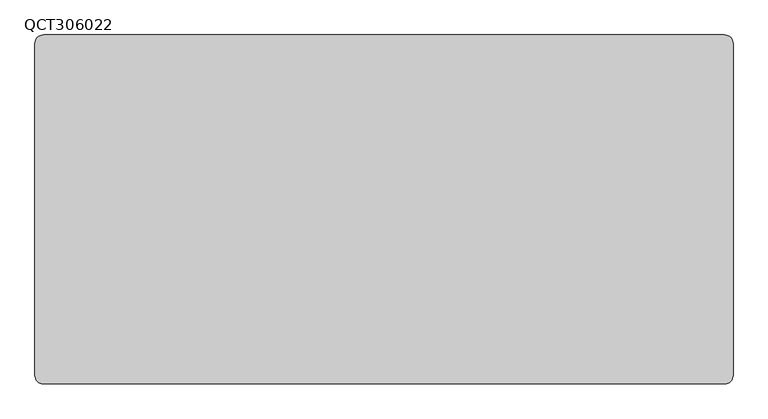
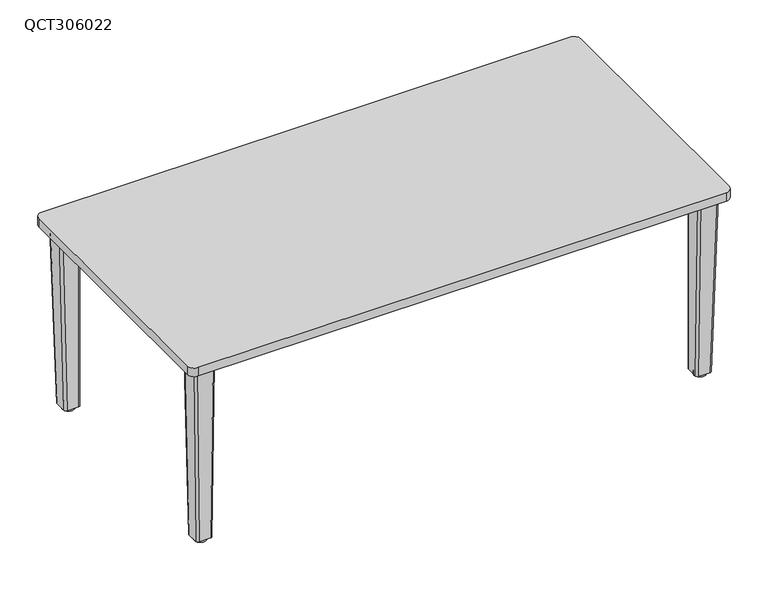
"""IFC4 building model written with IfcOpenShell, lengths in millimetres: furniture geometry, Leland-Quince-Table_Rectangle : QCT306022."""

from ifc_helpers import new_model, si_unit, point, frame, frame_2d, origin, origin_with_axes, place, context, project, spatial, polyline, circle_curve, trimmed, segment, composite_curve, outline, extrude, source, transform, mapped, element, save
from ifc_brep_helpers import plane_surface, cylinder_surface, extruded_surface, advanced_brep


def qct306022_8d185105(model_context):
    return source(origin(), model_context, "Body", "SolidModel", [
        advanced_brep(
        [(731.0299122, -299.2482078, 528.6487443), (686.5799122, -299.2482078, 528.6487443), (680.2299122, -305.5982078, 528.6487443), (680.2299122, -350.0482078, 528.6487443), (686.5799122, -356.3982078, 528.6487443), (731.0299122, -356.3982078, 528.6487443), (737.3799122, -350.0482078, 528.6487443), (737.3799122, -305.5982078, 528.6487443), (718.7392552, -299.2482078, 9.5377), (725.0892552, -305.5982078, 9.5377), (725.0892552, -337.7651364, 9.5377), (718.7392552, -344.1151364, 9.5377), (686.5799122, -344.1151364, 9.5377), (680.2299122, -337.7651364, 9.5377), (680.2299122, -305.5982078, 9.5377), (686.5799122, -299.2482078, 9.5377)],
        [
            (0, 1),
            (1, 2, circle_curve(frame((686.5799122, -305.5982078, 528.6487443), z_axis=(0.0, 0.0, 1.0), x_axis=(-1.0, 0.0, 0.0)), 6.35)),
            (2, 3),
            (3, 4, circle_curve(frame((686.5799122, -350.0482078, 528.6487443), z_axis=(0.0, 0.0, 1.0), x_axis=(-1.0, 0.0, 0.0)), 6.35)),
            (4, 5),
            (5, 6, circle_curve(frame((731.0299122, -350.0482078, 528.6487443), z_axis=(0.0, 0.0, 1.0), x_axis=(-1.0, 0.0, 0.0)), 6.35)),
            (6, 7),
            (7, 0, circle_curve(frame((731.0299122, -305.5982078, 528.6487443), z_axis=(0.0, 0.0, 1.0), x_axis=(-1.0, 0.0, 0.0)), 6.35)),
            (8, 9, circle_curve(frame((718.7392552, -305.5982078, 9.5377), z_axis=(0.0, 0.0, -1.0), x_axis=(-1.0, 0.0, 0.0)), 6.35)),
            (9, 10),
            (10, 11, circle_curve(frame((718.7392552, -337.7651364, 9.5377), z_axis=(0.0, 0.0, -1.0), x_axis=(-1.0, 0.0, 0.0)), 6.35)),
            (11, 12),
            (12, 13, circle_curve(frame((686.5799122, -337.7651364, 9.5377), z_axis=(0.0, 0.0, -1.0), x_axis=(-1.0, 0.0, 0.0)), 6.35)),
            (13, 14),
            (14, 15, circle_curve(frame((686.5799122, -305.5982078, 9.5377), z_axis=(0.0, 0.0, -1.0), x_axis=(-1.0, 0.0, 0.0)), 6.35)),
            (15, 8),
            (8, 0),
            (7, 9),
            (6, 10),
            (5, 11),
            (4, 12),
            (3, 13),
            (2, 14),
            (1, 15),
        ],
        [
            plane_surface(frame((708.8049122, -327.8232078, 528.6487443), z_axis=(0.0, 0.0, 1.0), x_axis=(1.0, 0.0, 0.0))),
            plane_surface(frame((702.6595837, -321.6816721, 9.5377), z_axis=(0.0, 0.0, -1.0), x_axis=(1.0, 0.0, 0.0))),
            extruded_surface(trimmed(circle_curve(frame((718.7392552, -305.5982078, 9.5377), z_axis=(0.0, 0.0, 1.0), x_axis=(-1.0, 0.0, 0.0)), 6.35), [point((725.0892552, -305.5982078, 9.5377))], [point((718.7392552, -299.2482078, 9.5377))], True, "CARTESIAN"), (12.29065700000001, 0.0, 519.1110443), 519.2565228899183),
            plane_surface(frame((725.0892552, -321.6816721, 9.5377), z_axis=(0.999719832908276, 0.0, -0.023669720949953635), x_axis=(0.0, 1.0, 0.0))),
            extruded_surface(trimmed(circle_curve(frame((718.7392552, -337.7651364, 9.5377), z_axis=(0.0, 0.0, 1.0), x_axis=(-1.0, 0.0, 0.0)), 6.35), [point((718.7392552, -344.1151364, 9.5377))], [point((725.0892552, -337.7651364, 9.5377))], True, "CARTESIAN"), (12.29065700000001, -12.283071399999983, 519.1110443), 519.4017812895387),
            plane_surface(frame((702.6595837, -344.1151364, 9.5377), z_axis=(0.0, -0.9997201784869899, -0.02365512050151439), x_axis=(1.0, 0.0, 0.0))),
            extruded_surface(trimmed(circle_curve(frame((686.5799122, -337.7651364, 9.5377), z_axis=(0.0, 0.0, 1.0), x_axis=(-1.0, 0.0, 0.0)), 6.35), [point((680.2299122, -337.7651364, 9.5377))], [point((686.5799122, -344.1151364, 9.5377))], True, "CARTESIAN"), (0.0, -12.283071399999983, 519.1110443), 519.2563433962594),
            plane_surface(frame((680.2299122, -321.6816721, 9.5377), z_axis=(-1.0, 0.0, 0.0), x_axis=(0.0, -1.0, 0.0))),
            cylinder_surface(frame((686.5799122, -305.5982078, 9.5377), z_axis=(0.0, 0.0, 1.0), x_axis=(-1.0, 0.0, 0.0)), 6.35),
            plane_surface(frame((702.6595837, -299.2482078, 9.5377), z_axis=(0.0, 1.0, 0.0), x_axis=(-1.0, 0.0, 0.0))),
        ],
        [
            (0, [[1, 2, 3, 4, 5, 6, 7, 8]]),
            (1, [[9, 10, 11, 12, 13, 14, 15, 16]]),
            (2, [[-9, 17, -8, 18]]),
            (3, [[-10, -18, -7, 19]]),
            (4, [[-11, -19, -6, 20]]),
            (5, [[-12, -20, -5, 21]]),
            (6, [[-13, -21, -4, 22]]),
            (7, [[-14, -22, -3, 23]]),
            (8, [[-15, -23, -2, 24]]),
            (9, [[-16, -24, -1, -17]]),
        ],
    ),
        advanced_brep(
        [(-731.0299122, -299.2482078, 528.6487443), (-737.3799122, -305.5982078, 528.6487443), (-737.3799122, -350.0482078, 528.6487443), (-731.0299122, -356.3982078, 528.6487443), (-686.5799122, -356.3982078, 528.6487443), (-680.2299122, -350.0482078, 528.6487443), (-680.2299122, -305.5982078, 528.6487443), (-686.5799122, -299.2482078, 528.6487443), (-718.7392552, -299.2482078, 9.5377), (-686.5799122, -299.2482078, 9.5377), (-680.2299122, -305.5982078, 9.5377), (-680.2299122, -337.7651364, 9.5377), (-686.5799122, -344.1151364, 9.5377), (-718.7392552, -344.1151364, 9.5377), (-725.0892552, -337.7651364, 9.5377), (-725.0892552, -305.5982078, 9.5377)],
        [
            (0, 1, circle_curve(frame((-731.0299122, -305.5982078, 528.6487443), z_axis=(0.0, 0.0, 1.0), x_axis=(1.0, 0.0, 0.0)), 6.35)),
            (1, 2),
            (2, 3, circle_curve(frame((-731.0299122, -350.0482078, 528.6487443), z_axis=(0.0, 0.0, 1.0), x_axis=(1.0, 0.0, 0.0)), 6.35)),
            (3, 4),
            (4, 5, circle_curve(frame((-686.5799122, -350.0482078, 528.6487443), z_axis=(0.0, 0.0, 1.0), x_axis=(1.0, 0.0, 0.0)), 6.35)),
            (5, 6),
            (6, 7, circle_curve(frame((-686.5799122, -305.5982078, 528.6487443), z_axis=(0.0, 0.0, 1.0), x_axis=(0.0, 1.0, 0.0)), 6.35)),
            (7, 0),
            (8, 9),
            (9, 10, circle_curve(frame((-686.5799122, -305.5982078, 9.5377), z_axis=(0.0, 0.0, -1.0), x_axis=(0.0, 1.0, 0.0)), 6.35)),
            (10, 11),
            (11, 12, circle_curve(frame((-686.5799122, -337.7651364, 9.5377), z_axis=(0.0, 0.0, -1.0), x_axis=(1.0, 0.0, 0.0)), 6.35)),
            (12, 13),
            (13, 14, circle_curve(frame((-718.7392552, -337.7651364, 9.5377), z_axis=(0.0, 0.0, -1.0), x_axis=(1.0, 0.0, 0.0)), 6.35)),
            (14, 15),
            (15, 8, circle_curve(frame((-718.7392552, -305.5982078, 9.5377), z_axis=(0.0, 0.0, -1.0), x_axis=(1.0, 0.0, 0.0)), 6.35)),
            (15, 1),
            (0, 8),
            (14, 2),
            (13, 3),
            (12, 4),
            (11, 5),
            (10, 6),
            (9, 7),
        ],
        [
            plane_surface(frame((-708.8049122, -327.8232078, 528.6487443), z_axis=(0.0, 0.0, 1.0), x_axis=(1.0, 0.0, 0.0))),
            plane_surface(frame((-702.6595837, -321.6816721, 9.5377), z_axis=(0.0, 0.0, -1.0), x_axis=(1.0, 0.0, 0.0))),
            extruded_surface(trimmed(circle_curve(frame((-718.7392552, -305.5982078, 9.5377), z_axis=(0.0, 0.0, 1.0), x_axis=(1.0, 0.0, 0.0)), 6.35), [point((-718.7392552, -299.2482078, 9.5377))], [point((-725.0892552, -305.5982078, 9.5377))], True, "CARTESIAN"), (-12.29065700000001, 0.0, 519.1110443), 519.2565228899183),
            plane_surface(frame((-725.0892552, -321.6816721, 9.5377), z_axis=(-0.999719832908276, 0.0, -0.023669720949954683), x_axis=(0.0, -1.0, 0.0))),
            extruded_surface(trimmed(circle_curve(frame((-718.7392552, -337.7651364, 9.5377), z_axis=(0.0, 0.0, 1.0), x_axis=(1.0, 0.0, 0.0)), 6.35), [point((-725.0892552, -337.7651364, 9.5377))], [point((-718.7392552, -344.1151364, 9.5377))], True, "CARTESIAN"), (-12.29065700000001, -12.283071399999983, 519.1110443), 519.4017812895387),
            plane_surface(frame((-702.6595837, -344.1151364, 9.5377), z_axis=(0.0, -0.9997201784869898, -0.023655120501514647), x_axis=(1.0, 0.0, 0.0))),
            extruded_surface(trimmed(circle_curve(frame((-686.5799122, -337.7651364, 9.5377), z_axis=(0.0, 0.0, 1.0), x_axis=(1.0, 0.0, 0.0)), 6.35), [point((-686.5799122, -344.1151364, 9.5377))], [point((-680.2299122, -337.7651364, 9.5377))], True, "CARTESIAN"), (0.0, -12.283071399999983, 519.1110443), 519.2563433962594),
            plane_surface(frame((-680.2299122, -321.6816721, 9.5377), z_axis=(1.0, 0.0, 0.0), x_axis=(0.0, 1.0, 0.0))),
            cylinder_surface(frame((-686.5799122, -305.5982078, 9.5377), z_axis=(0.0, 0.0, 1.0), x_axis=(0.0, 1.0, 0.0)), 6.35),
            plane_surface(frame((-702.6595837, -299.2482078, 9.5377), z_axis=(0.0, 1.0, 0.0), x_axis=(-1.0, 0.0, 0.0))),
        ],
        [
            (0, [[1, 2, 3, 4, 5, 6, 7, 8]]),
            (1, [[9, 10, 11, 12, 13, 14, 15, 16]]),
            (2, [[-16, 17, -1, 18]]),
            (3, [[-15, 19, -2, -17]]),
            (4, [[-14, 20, -3, -19]]),
            (5, [[-13, 21, -4, -20]]),
            (6, [[-12, 22, -5, -21]]),
            (7, [[-11, 23, -6, -22]]),
            (8, [[-10, 24, -7, -23]]),
            (9, [[-9, -18, -8, -24]]),
        ],
    ),
        advanced_brep(
        [(731.0299122, 299.2482078, 528.6487443), (737.3799122, 305.5982078, 528.6487443), (737.3799122, 350.0482078, 528.6487443), (731.0299122, 356.3982078, 528.6487443), (686.5799122, 356.3982078, 528.6487443), (680.2299122, 350.0482078, 528.6487443), (680.2299122, 305.5982078, 528.6487443), (686.5799122, 299.2482078, 528.6487443), (718.7392552, 299.2482078, 9.5377), (686.5799122, 299.2482078, 9.5377), (680.2299122, 305.5982078, 9.5377), (680.2299122, 337.7651364, 9.5377), (686.5799122, 344.1151364, 9.5377), (718.7392552, 344.1151364, 9.5377), (725.0892552, 337.7651364, 9.5377), (725.0892552, 305.5982078, 9.5377)],
        [
            (0, 1, circle_curve(frame((731.0299122, 305.5982078, 528.6487443), z_axis=(0.0, 0.0, 1.0), x_axis=(-1.0, 0.0, 0.0)), 6.35)),
            (1, 2),
            (2, 3, circle_curve(frame((731.0299122, 350.0482078, 528.6487443), z_axis=(0.0, 0.0, 1.0), x_axis=(-1.0, 0.0, 0.0)), 6.35)),
            (3, 4),
            (4, 5, circle_curve(frame((686.5799122, 350.0482078, 528.6487443), z_axis=(0.0, 0.0, 1.0), x_axis=(-1.0, 0.0, 0.0)), 6.35)),
            (5, 6),
            (6, 7, circle_curve(frame((686.5799122, 305.5982078, 528.6487443), z_axis=(0.0, 0.0, 1.0), x_axis=(0.0, -1.0, 0.0)), 6.35)),
            (7, 0),
            (8, 9),
            (9, 10, circle_curve(frame((686.5799122, 305.5982078, 9.5377), z_axis=(0.0, 0.0, -1.0), x_axis=(0.0, -1.0, 0.0)), 6.35)),
            (10, 11),
            (11, 12, circle_curve(frame((686.5799122, 337.7651364, 9.5377), z_axis=(0.0, 0.0, -1.0), x_axis=(-1.0, 0.0, 0.0)), 6.35)),
            (12, 13),
            (13, 14, circle_curve(frame((718.7392552, 337.7651364, 9.5377), z_axis=(0.0, 0.0, -1.0), x_axis=(-1.0, 0.0, 0.0)), 6.35)),
            (14, 15),
            (15, 8, circle_curve(frame((718.7392552, 305.5982078, 9.5377), z_axis=(0.0, 0.0, -1.0), x_axis=(-1.0, 0.0, 0.0)), 6.35)),
            (15, 1),
            (0, 8),
            (14, 2),
            (13, 3),
            (12, 4),
            (11, 5),
            (10, 6),
            (9, 7),
        ],
        [
            plane_surface(frame((708.8049122, 327.8232078, 528.6487443), z_axis=(0.0, 0.0, 1.0), x_axis=(-1.0, 0.0, 0.0))),
            plane_surface(frame((702.6595837, 321.6816721, 9.5377), z_axis=(0.0, 0.0, -1.0), x_axis=(-1.0, 0.0, 0.0))),
            extruded_surface(trimmed(circle_curve(frame((718.7392552, 305.5982078, 9.5377), z_axis=(0.0, 0.0, 1.0), x_axis=(-1.0, 0.0, 0.0)), 6.35), [point((718.7392552, 299.2482078, 9.5377))], [point((725.0892552, 305.5982078, 9.5377))], True, "CARTESIAN"), (12.29065700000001, 0.0, 519.1110443), 519.2565228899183),
            plane_surface(frame((725.0892552, 321.6816721, 9.5377), z_axis=(0.999719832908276, 0.0, -0.02366972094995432), x_axis=(0.0, 1.0, 0.0))),
            extruded_surface(trimmed(circle_curve(frame((718.7392552, 337.7651364, 9.5377), z_axis=(0.0, 0.0, 1.0), x_axis=(-1.0, 0.0, 0.0)), 6.35), [point((725.0892552, 337.7651364, 9.5377))], [point((718.7392552, 344.1151364, 9.5377))], True, "CARTESIAN"), (12.29065700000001, 12.283071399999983, 519.1110443), 519.4017812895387),
            plane_surface(frame((702.6595837, 344.1151364, 9.5377), z_axis=(0.0, 0.9997201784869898, -0.02365512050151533), x_axis=(-1.0, 0.0, 0.0))),
            extruded_surface(trimmed(circle_curve(frame((686.5799122, 337.7651364, 9.5377), z_axis=(0.0, 0.0, 1.0), x_axis=(-1.0, 0.0, 0.0)), 6.35), [point((686.5799122, 344.1151364, 9.5377))], [point((680.2299122, 337.7651364, 9.5377))], True, "CARTESIAN"), (0.0, 12.283071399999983, 519.1110443), 519.2563433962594),
            plane_surface(frame((680.2299122, 321.6816721, 9.5377), z_axis=(-1.0, 0.0, 0.0), x_axis=(0.0, -1.0, 0.0))),
            cylinder_surface(frame((686.5799122, 305.5982078, 9.5377), z_axis=(0.0, 0.0, 1.0), x_axis=(0.0, -1.0, 0.0)), 6.35),
            plane_surface(frame((702.6595837, 299.2482078, 9.5377), z_axis=(0.0, -1.0, 0.0), x_axis=(1.0, 0.0, 0.0))),
        ],
        [
            (0, [[1, 2, 3, 4, 5, 6, 7, 8]]),
            (1, [[9, 10, 11, 12, 13, 14, 15, 16]]),
            (2, [[-16, 17, -1, 18]]),
            (3, [[-15, 19, -2, -17]]),
            (4, [[-14, 20, -3, -19]]),
            (5, [[-13, 21, -4, -20]]),
            (6, [[-12, 22, -5, -21]]),
            (7, [[-11, 23, -6, -22]]),
            (8, [[-10, 24, -7, -23]]),
            (9, [[-9, -18, -8, -24]]),
        ],
    ),
        extrude(outline(composite_curve([segment(trimmed(circle_curve(frame_2d((-702.6595837, 321.6816721)), 16.66875), [point((-719.3283337, 321.6816721))], [point((-685.9908337, 321.6816721))], False, "CARTESIAN"), True, "CONTINUOUS"), segment(trimmed(circle_curve(frame_2d((-702.6595837, 321.6816721)), 16.66875), [point((-685.9908337, 321.6816721))], [point((-719.3283337, 321.6816721))], False, "CARTESIAN"), True, "CONTINUOUS")], self_intersect=False)), origin_with_axes(), (0.0, 0.0, 1.0), 9.5377),
        extrude(outline(composite_curve([segment(trimmed(circle_curve(frame_2d((702.6595837, 321.6816721)), 16.66875), [point((685.9908337, 321.6816721))], [point((719.3283337, 321.6816721))], False, "CARTESIAN"), True, "CONTINUOUS"), segment(trimmed(circle_curve(frame_2d((702.6595837, 321.6816721)), 16.66875), [point((719.3283337, 321.6816721))], [point((685.9908337, 321.6816721))], False, "CARTESIAN"), True, "CONTINUOUS")], self_intersect=False)), origin_with_axes(), (0.0, 0.0, 1.0), 9.5377),
        extrude(outline(composite_curve([segment(trimmed(circle_curve(frame_2d((-702.6595837, -321.6816721)), 16.66875), [point((-719.3283337, -321.6816721))], [point((-685.9908337, -321.6816721))], False, "CARTESIAN"), True, "CONTINUOUS"), segment(trimmed(circle_curve(frame_2d((-702.6595837, -321.6816721)), 16.66875), [point((-685.9908337, -321.6816721))], [point((-719.3283337, -321.6816721))], False, "CARTESIAN"), True, "CONTINUOUS")], self_intersect=False)), origin_with_axes(), (0.0, 0.0, 1.0), 9.5377),
        extrude(outline(composite_curve([segment(trimmed(circle_curve(frame_2d((702.6595837, -321.6816721)), 16.66875), [point((685.9908337, -321.6816721))], [point((719.3283337, -321.6816721))], False, "CARTESIAN"), True, "CONTINUOUS"), segment(trimmed(circle_curve(frame_2d((702.6595837, -321.6816721)), 16.66875), [point((719.3283337, -321.6816721))], [point((685.9908337, -321.6816721))], False, "CARTESIAN"), True, "CONTINUOUS")], self_intersect=False)), origin_with_axes(), (0.0, 0.0, 1.0), 9.5377),
        extrude(outline(polyline([(-632.61875, 353.21875), (-632.61875, 251.61875), (-734.21875, 251.61875), (-734.21875, 353.21875), (-632.61875, 353.21875)])), frame((0.0, 0.0, 528.6487443), z_axis=(0.0, 0.0, 1.0), x_axis=(1.0, 0.0, 0.0)), (0.0, 0.0, 1.0), 4.7625),
        extrude(outline(polyline([(632.61875, 353.21875), (734.21875, 353.21875), (734.21875, 251.61875), (632.61875, 251.61875), (632.61875, 353.21875)])), frame((0.0, 0.0, 528.6487443), z_axis=(0.0, 0.0, 1.0), x_axis=(1.0, 0.0, 0.0)), (0.0, 0.0, 1.0), 4.7625),
        extrude(outline(polyline([(-632.61875, -353.21875), (-734.21875, -353.21875), (-734.21875, -251.61875), (-632.61875, -251.61875), (-632.61875, -353.21875)])), frame((0.0, 0.0, 528.6487443), z_axis=(0.0, 0.0, 1.0), x_axis=(1.0, 0.0, 0.0)), (0.0, 0.0, 1.0), 4.7625),
        extrude(outline(polyline([(632.61875, -353.21875), (632.61875, -251.61875), (734.21875, -251.61875), (734.21875, -353.21875), (632.61875, -353.21875)])), frame((0.0, 0.0, 528.6487443), z_axis=(0.0, 0.0, 1.0), x_axis=(1.0, 0.0, 0.0)), (0.0, 0.0, 1.0), 4.7625),
        advanced_brep(
        [(-731.0299122, 299.2482078, 528.6487443), (-686.5799122, 299.2482078, 528.6487443), (-680.2299122, 305.5982078, 528.6487443), (-680.2299122, 350.0482078, 528.6487443), (-686.5799122, 356.3982078, 528.6487443), (-731.0299122, 356.3982078, 528.6487443), (-737.3799122, 350.0482078, 528.6487443), (-737.3799122, 305.5982078, 528.6487443), (-718.7392552, 299.2482078, 9.5377), (-725.0892552, 305.5982078, 9.5377), (-725.0892552, 337.7651364, 9.5377), (-718.7392552, 344.1151364, 9.5377), (-686.5799122, 344.1151364, 9.5377), (-680.2299122, 337.7651364, 9.5377), (-680.2299122, 305.5982078, 9.5377), (-686.5799122, 299.2482078, 9.5377)],
        [
            (0, 1),
            (1, 2, circle_curve(frame((-686.5799122, 305.5982078, 528.6487443), z_axis=(0.0, 0.0, 1.0), x_axis=(1.0, 0.0, 0.0)), 6.35)),
            (2, 3),
            (3, 4, circle_curve(frame((-686.5799122, 350.0482078, 528.6487443), z_axis=(0.0, 0.0, 1.0), x_axis=(1.0, 0.0, 0.0)), 6.35)),
            (4, 5),
            (5, 6, circle_curve(frame((-731.0299122, 350.0482078, 528.6487443), z_axis=(0.0, 0.0, 1.0), x_axis=(1.0, 0.0, 0.0)), 6.35)),
            (6, 7),
            (7, 0, circle_curve(frame((-731.0299122, 305.5982078, 528.6487443), z_axis=(0.0, 0.0, 1.0), x_axis=(1.0, 0.0, 0.0)), 6.35)),
            (8, 9, circle_curve(frame((-718.7392552, 305.5982078, 9.5377), z_axis=(0.0, 0.0, -1.0), x_axis=(1.0, 0.0, 0.0)), 6.35)),
            (9, 10),
            (10, 11, circle_curve(frame((-718.7392552, 337.7651364, 9.5377), z_axis=(0.0, 0.0, -1.0), x_axis=(1.0, 0.0, 0.0)), 6.35)),
            (11, 12),
            (12, 13, circle_curve(frame((-686.5799122, 337.7651364, 9.5377), z_axis=(0.0, 0.0, -1.0), x_axis=(1.0, 0.0, 0.0)), 6.35)),
            (13, 14),
            (14, 15, circle_curve(frame((-686.5799122, 305.5982078, 9.5377), z_axis=(0.0, 0.0, -1.0), x_axis=(1.0, 0.0, 0.0)), 6.35)),
            (15, 8),
            (8, 0),
            (7, 9),
            (6, 10),
            (5, 11),
            (4, 12),
            (3, 13),
            (2, 14),
            (1, 15),
        ],
        [
            plane_surface(frame((-708.8049122, 327.8232078, 528.6487443), z_axis=(0.0, 0.0, 1.0), x_axis=(-1.0, 0.0, 0.0))),
            plane_surface(frame((-702.6595837, 321.6816721, 9.5377), z_axis=(0.0, 0.0, -1.0), x_axis=(-1.0, 0.0, 0.0))),
            extruded_surface(trimmed(circle_curve(frame((-718.7392552, 305.5982078, 9.5377), z_axis=(0.0, 0.0, 1.0), x_axis=(1.0, 0.0, 0.0)), 6.35), [point((-725.0892552, 305.5982078, 9.5377))], [point((-718.7392552, 299.2482078, 9.5377))], True, "CARTESIAN"), (-12.29065700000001, 0.0, 519.1110443), 519.2565228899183),
            plane_surface(frame((-725.0892552, 321.6816721, 9.5377), z_axis=(-0.999719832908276, 0.0, -0.023669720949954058), x_axis=(0.0, -1.0, 0.0))),
            extruded_surface(trimmed(circle_curve(frame((-718.7392552, 337.7651364, 9.5377), z_axis=(0.0, 0.0, 1.0), x_axis=(1.0, 0.0, 0.0)), 6.35), [point((-718.7392552, 344.1151364, 9.5377))], [point((-725.0892552, 337.7651364, 9.5377))], True, "CARTESIAN"), (-12.29065700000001, 12.283071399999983, 519.1110443), 519.4017812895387),
            plane_surface(frame((-702.6595837, 344.1151364, 9.5377), z_axis=(0.0, 0.9997201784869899, -0.02365512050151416), x_axis=(-1.0, 0.0, 0.0))),
            extruded_surface(trimmed(circle_curve(frame((-686.5799122, 337.7651364, 9.5377), z_axis=(0.0, 0.0, 1.0), x_axis=(1.0, 0.0, 0.0)), 6.35), [point((-680.2299122, 337.7651364, 9.5377))], [point((-686.5799122, 344.1151364, 9.5377))], True, "CARTESIAN"), (0.0, 12.283071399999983, 519.1110443), 519.2563433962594),
            plane_surface(frame((-680.2299122, 321.6816721, 9.5377), z_axis=(1.0, 0.0, 0.0), x_axis=(0.0, 1.0, 0.0))),
            cylinder_surface(frame((-686.5799122, 305.5982078, 9.5377), z_axis=(0.0, 0.0, 1.0), x_axis=(1.0, 0.0, 0.0)), 6.35),
            plane_surface(frame((-702.6595837, 299.2482078, 9.5377), z_axis=(0.0, -1.0, 0.0), x_axis=(1.0, 0.0, 0.0))),
        ],
        [
            (0, [[1, 2, 3, 4, 5, 6, 7, 8]]),
            (1, [[9, 10, 11, 12, 13, 14, 15, 16]]),
            (2, [[-9, 17, -8, 18]]),
            (3, [[-10, -18, -7, 19]]),
            (4, [[-11, -19, -6, 20]]),
            (5, [[-12, -20, -5, 21]]),
            (6, [[-13, -21, -4, 22]]),
            (7, [[-14, -22, -3, 23]]),
            (8, [[-15, -23, -2, 24]]),
            (9, [[-16, -24, -1, -17]]),
        ],
    ),
        extrude(outline(composite_curve([segment(trimmed(circle_curve(frame_2d((742.95, 361.95)), 19.05), [point((742.95, 381.0))], [point((762.0, 361.95))], False, "CARTESIAN"), True, "CONTINUOUS"), segment(polyline([(762.0, 361.95), (762.0, -361.95)]), True, "CONTINUOUS"), segment(trimmed(circle_curve(frame_2d((742.95, -361.95)), 19.05), [point((762.0, -361.95))], [point((742.95, -381.0))], False, "CARTESIAN"), True, "CONTINUOUS"), segment(polyline([(742.95, -381.0), (-742.95, -381.0)]), True, "CONTINUOUS"), segment(trimmed(circle_curve(frame_2d((-742.95, -361.95)), 19.05), [point((-742.95, -381.0))], [point((-762.0, -361.95))], False, "CARTESIAN"), True, "CONTINUOUS"), segment(polyline([(-762.0, -361.95), (-762.0, 361.95)]), True, "CONTINUOUS"), segment(trimmed(circle_curve(frame_2d((-742.95, 361.95)), 19.05), [point((-762.0, 361.95))], [point((-742.95, 381.0))], False, "CARTESIAN"), True, "CONTINUOUS"), segment(polyline([(-742.95, 381.0), (742.95, 381.0)]), True, "CONTINUOUS")], self_intersect=False)), frame((0.0, 0.0, 533.4112443), z_axis=(0.0, 0.0, 1.0), x_axis=(1.0, 0.0, 0.0)), (0.0, 0.0, 1.0), 25.3887557),
    ])


if __name__ == "__main__":
    model = new_model("IFC4")
    model_context = context("Model", 3, world=origin())
    ifc_project = project(units=[si_unit("LENGTHUNIT", "METRE", prefix="MILLI")], contexts=[model_context])
    site = spatial("IfcSite", under=ifc_project)
    building = spatial("IfcBuilding", under=site)
    placement = place(None, origin())
    qct306022_shape = qct306022_8d185105(model_context)
    element("IfcFurniture", 1, ObjectType="Leland-Quince-Table_Rectangle : QCT306022", at=placement, inside=building, context=model_context, shape_type="MappedRepresentation", body=[
        mapped(qct306022_shape, transform((0.0, 0.0, 0.0), x_axis=(1.0, 0.0, 0.0), y_axis=(0.0, 1.0, 0.0), z_axis=(0.0, 0.0, 1.0))),
    ])
    save(model, "model.ifc")
